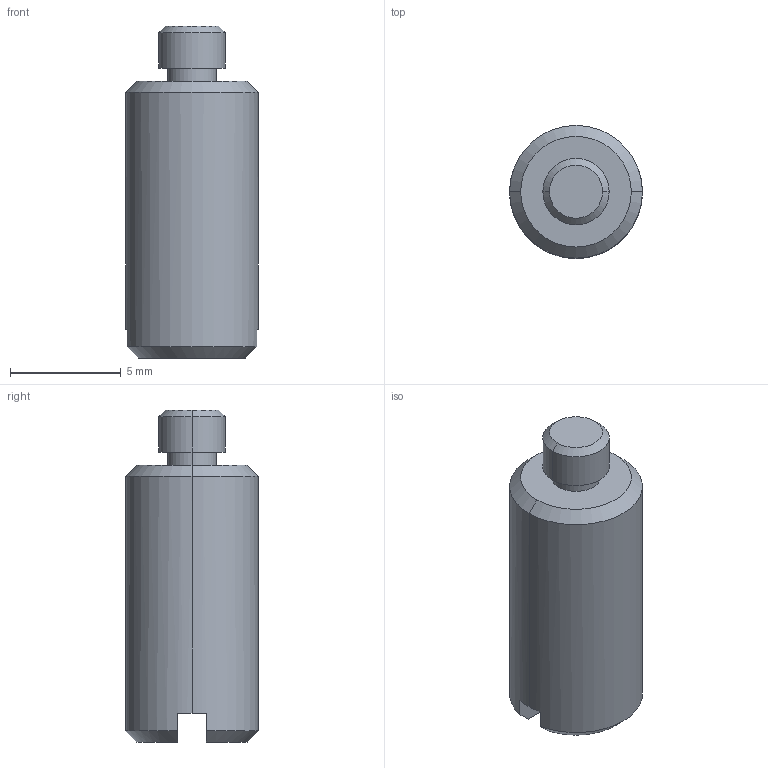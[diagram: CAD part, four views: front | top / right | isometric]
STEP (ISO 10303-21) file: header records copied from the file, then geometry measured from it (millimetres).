
FILE_DESCRIPTION (( 'STEP AP203' ), '1' );
FILE_NAME ('CSNSP-12.5.STEP', '2023-11-24T04:55:02', ( '' ), ( '' ), 'SwSTEP 2.0', 'SolidWorks 2021', '' );
FILE_SCHEMA (( 'CONFIG_CONTROL_DESIGN' ));
Length unit declared in the file: millimetre
Products named in the file (1): CSNSP-12.5
Bounding box: 6 x 6 x 15 mm (x, y, z)
Surface area: 352.1 mm2 (no closed solid volume)
Topology: 0 solids, 2 shells, 26 faces, 68 edges, 44 vertices
Faces by surface type: plane 10, cylinder 8, cone 8
Entity records: 894 total; most frequent: CARTESIAN_POINT 163, DIRECTION 146, ORIENTED_EDGE 130, EDGE_CURVE 68, AXIS2_PLACEMENT_3D 59, VERTEX_POINT 44, CIRCLE 32, LINE 28
